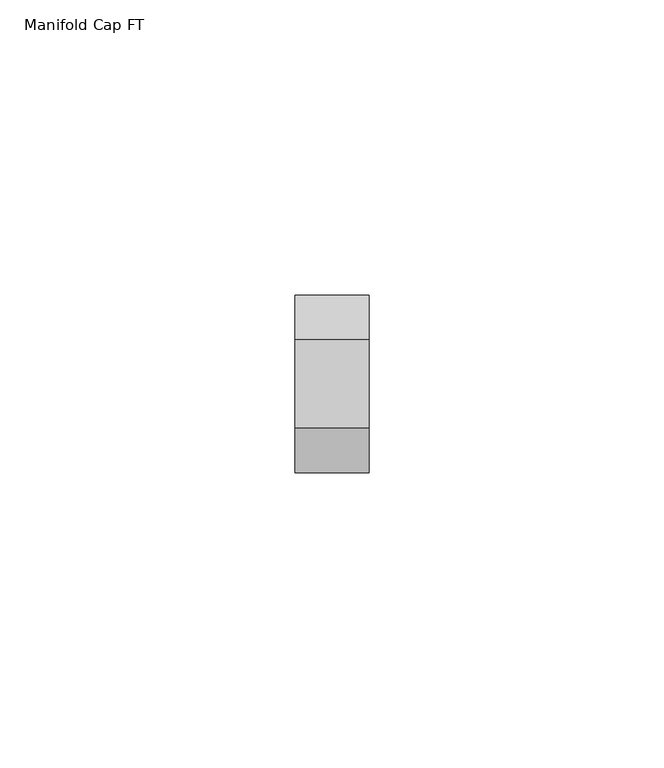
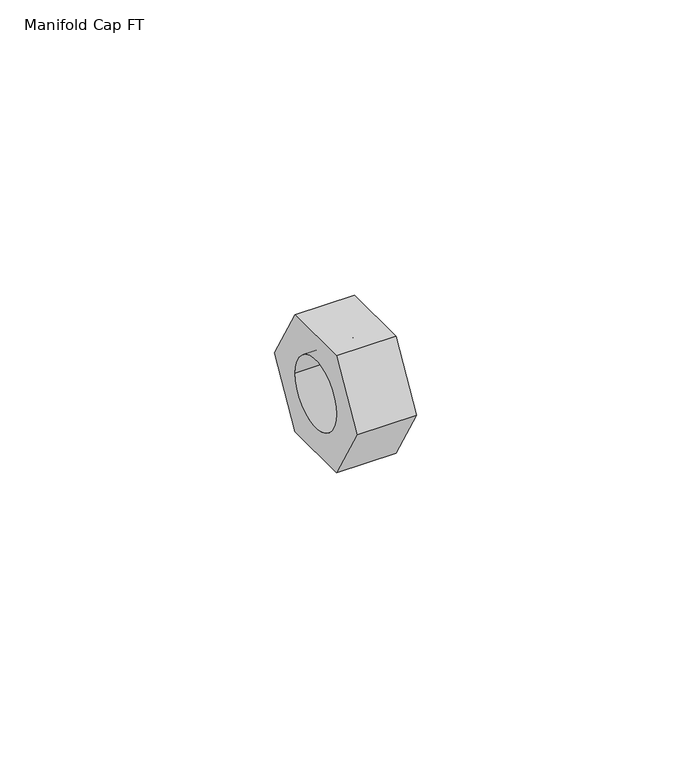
"""IFC4 building model written with IfcOpenShell, lengths in millimetres: pipe fitting geometry."""

from ifc_helpers import new_model, si_unit, frame, origin, place, context, project, spatial, polyline, circle_curve, source, transform, mapped, element, save
from ifc_brep_helpers import plane_surface, revolved_surface, advanced_brep


def manifold_cap_ft_4510c732(model_context):
    return source(origin(), model_context, "Body", "AdvancedBrep", [
        advanced_brep(
        [(0.0, -15.011107, 0.0), (0.0, -7.5055535, 13.0), (0.0, 7.5055535, 13.0), (0.0, 15.011107, 0.0), (0.0, 7.5055535, -13.0), (0.0, -7.5055535, -13.0), (0.0, -7.5, 0.0), (0.0, 7.5, 0.0), (12.5, -15.011107, 0.0), (12.5, -7.5055535, -13.0), (12.5, 7.5055535, -13.0), (12.5, 15.011107, 0.0), (12.5, 7.5055535, 13.0), (12.5, -7.5055535, 13.0), (10.5, 7.5, 0.0), (10.5, -7.5, 0.0)],
        [
            (0, 1),
            (1, 2),
            (2, 3),
            (3, 4),
            (4, 5),
            (5, 0),
            (6, 7, circle_curve(frame((0.0, 0.0, 0.0), z_axis=(1.0, 0.0, 0.0), x_axis=(0.0, -1.0, 0.0)), 7.5)),
            (7, 6, circle_curve(frame((0.0, 0.0, 0.0), z_axis=(1.0, 0.0, 0.0), x_axis=(0.0, -1.0, 0.0)), 7.5)),
            (8, 9),
            (9, 10),
            (10, 11),
            (11, 12),
            (12, 13),
            (13, 8),
            (0, 8),
            (13, 1),
            (12, 2),
            (11, 3),
            (10, 4),
            (9, 5),
            (14, 15, circle_curve(frame((10.5, 0.0, 0.0), z_axis=(-1.0, 0.0, 0.0), x_axis=(0.0, -1.0, 0.0)), 7.5)),
            (15, 14, circle_curve(frame((10.5, 0.0, 0.0), z_axis=(-1.0, 0.0, 0.0), x_axis=(0.0, -1.0, 0.0)), 7.5)),
            (14, 7),
            (6, 15),
        ],
        [
            plane_surface(frame((0.0, 0.0, 0.0), z_axis=(-1.0, 0.0, 0.0), x_axis=(0.0, 0.0, 1.0))),
            plane_surface(frame((12.5, 0.0, 0.0), z_axis=(1.0, 0.0, 0.0), x_axis=(0.0, 0.0, 1.0))),
            plane_surface(frame((0.0, -15.011107, 0.0), z_axis=(0.0, -0.8660254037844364, 0.500000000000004), x_axis=(1.0, 0.0, 0.0))),
            plane_surface(frame((0.0, -7.5055535, 13.0), z_axis=(0.0, 0.0, 1.0), x_axis=(1.0, 0.0, 0.0))),
            plane_surface(frame((0.0, 7.5055535, 13.0), z_axis=(0.0, 0.8660254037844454, 0.49999999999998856), x_axis=(1.0, 0.0, 0.0))),
            plane_surface(frame((0.0, 15.011107, 0.0), z_axis=(0.0, 0.866025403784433, -0.5000000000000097), x_axis=(1.0, 0.0, 0.0))),
            plane_surface(frame((0.0, 7.5055535, -13.0), z_axis=(0.0, 0.0, -1.0), x_axis=(1.0, 0.0, 0.0))),
            plane_surface(frame((0.0, -7.5055535, -13.0), z_axis=(0.0, -0.8660254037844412, -0.4999999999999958), x_axis=(1.0, 0.0, 0.0))),
            plane_surface(frame((10.5, -7.5, 0.0), z_axis=(-1.0, 0.0, 0.0), x_axis=(0.0, 0.0, -1.0))),
            revolved_surface(polyline([(0.0, -7.5, 0.0), (10.5, -7.5, 0.0)]), (10.5, 0.0, 0.0), (-1.0, 0.0, 0.0)),
        ],
        [
            (0, [[1, 2, 3, 4, 5, 6], [7, 8]]),
            (1, [[9, 10, 11, 12, 13, 14]]),
            (2, [[-1, 15, -14, 16]]),
            (3, [[-2, -16, -13, 17]]),
            (4, [[-3, -17, -12, 18]]),
            (5, [[-4, -18, -11, 19]]),
            (6, [[-5, -19, -10, 20]]),
            (7, [[-6, -20, -9, -15]]),
            (8, [[21, 22]]),
            (9, [[-21, 23, -7, 24]]),
            (9, [[-22, -24, -8, -23]]),
        ],
    ),
    ])


if __name__ == "__main__":
    model = new_model("IFC4")
    model_context = context("Model", 3, world=origin())
    ifc_project = project(units=[si_unit("LENGTHUNIT", "METRE", prefix="MILLI")], contexts=[model_context])
    site = spatial("IfcSite", under=ifc_project)
    building = spatial("IfcBuilding", under=site)
    placement = place(None, origin())
    manifold_cap_ft_shape = manifold_cap_ft_4510c732(model_context)
    element("IfcPipeFitting", 1, ObjectType="Manifold Cap FT : Superpipe Manifold Cap With Seal- ½\" FT", at=placement, inside=building, context=model_context, shape_type="MappedRepresentation", body=[
        mapped(manifold_cap_ft_shape, transform((0.0, 0.0, 0.0), x_axis=(1.0, 0.0, 0.0), y_axis=(0.0, 1.0, 0.0), z_axis=(0.0, 0.0, 1.0))),
    ])
    save(model, "model.ifc")
